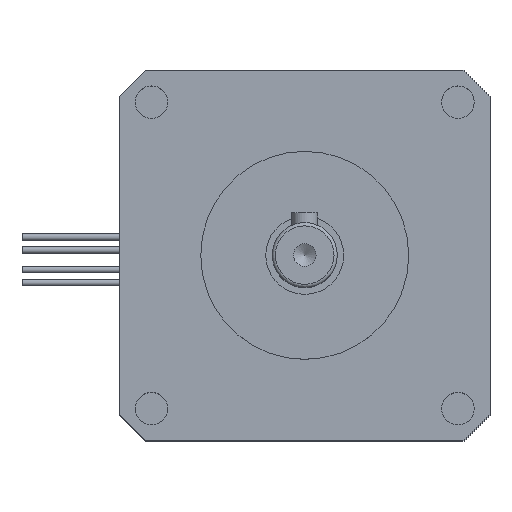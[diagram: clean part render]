
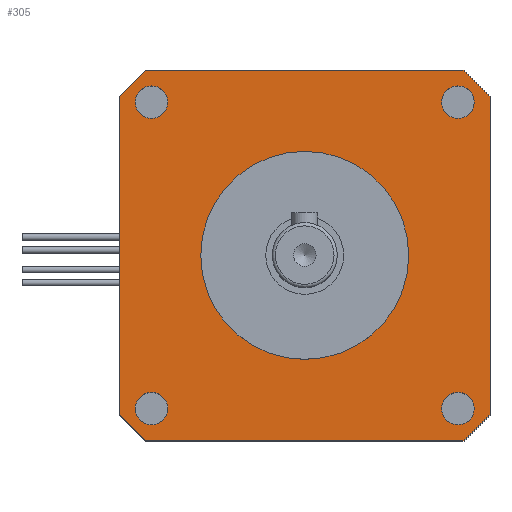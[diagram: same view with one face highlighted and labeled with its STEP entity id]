
A CAD part, top view. The second image highlights one B-rep face of the part: STEP entity #305.
In plain terms, the highlighted planar face has unit normal (0, 0, 1).
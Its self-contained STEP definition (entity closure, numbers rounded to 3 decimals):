
#305=ADVANCED_FACE('',(#1078,#1079,#1080,#1081,#1082,#1083),#458,.F.);
#458=PLANE('',#2848);
#558=LINE('',#3954,#814);
#562=LINE('',#3962,#818);
#565=LINE('',#3968,#821);
#568=LINE('',#3974,#824);
#570=LINE('',#3978,#826);
#571=LINE('',#3979,#827);
#572=LINE('',#3980,#828);
#573=LINE('',#3981,#829);
#814=VECTOR('',#3153,1.);
#818=VECTOR('',#3159,1.);
#821=VECTOR('',#3164,1.);
#824=VECTOR('',#3169,1.);
#826=VECTOR('',#3173,1.);
#827=VECTOR('',#3174,1.);
#828=VECTOR('',#3175,1.);
#829=VECTOR('',#3176,1.);
#1078=FACE_BOUND('',#1149,.T.);
#1079=FACE_BOUND('',#1150,.T.);
#1080=FACE_BOUND('',#1151,.T.);
#1081=FACE_BOUND('',#1152,.T.);
#1082=FACE_BOUND('',#1153,.T.);
#1083=FACE_BOUND('',#1154,.T.);
#1149=EDGE_LOOP('',(#1371));
#1150=EDGE_LOOP('',(#1372,#1373,#1374,#1375,#1376,#1377,#1378,#1379));
#1151=EDGE_LOOP('',(#1380));
#1152=EDGE_LOOP('',(#1381));
#1153=EDGE_LOOP('',(#1382));
#1154=EDGE_LOOP('',(#1383));
#1371=ORIENTED_EDGE('',*,*,#2350,.T.);
#1372=ORIENTED_EDGE('',*,*,#2355,.F.);
#1373=ORIENTED_EDGE('',*,*,#2363,.T.);
#1374=ORIENTED_EDGE('',*,*,#2351,.F.);
#1375=ORIENTED_EDGE('',*,*,#2364,.T.);
#1376=ORIENTED_EDGE('',*,*,#2361,.F.);
#1377=ORIENTED_EDGE('',*,*,#2365,.T.);
#1378=ORIENTED_EDGE('',*,*,#2358,.F.);
#1379=ORIENTED_EDGE('',*,*,#2366,.T.);
#1380=ORIENTED_EDGE('',*,*,#2367,.F.);
#1381=ORIENTED_EDGE('',*,*,#2368,.F.);
#1382=ORIENTED_EDGE('',*,*,#2369,.F.);
#1383=ORIENTED_EDGE('',*,*,#2370,.F.);
#2088=VERTEX_POINT('',#3951);
#2089=VERTEX_POINT('',#3955);
#2090=VERTEX_POINT('',#3956);
#2091=VERTEX_POINT('',#3961);
#2092=VERTEX_POINT('',#3963);
#2093=VERTEX_POINT('',#3967);
#2094=VERTEX_POINT('',#3969);
#2095=VERTEX_POINT('',#3973);
#2096=VERTEX_POINT('',#3975);
#2097=VERTEX_POINT('',#3983);
#2098=VERTEX_POINT('',#3985);
#2099=VERTEX_POINT('',#3987);
#2100=VERTEX_POINT('',#3989);
#2350=EDGE_CURVE('',#2088,#2088,#2711,.T.);
#2351=EDGE_CURVE('',#2089,#2090,#558,.T.);
#2355=EDGE_CURVE('',#2091,#2092,#562,.T.);
#2358=EDGE_CURVE('',#2093,#2094,#565,.T.);
#2361=EDGE_CURVE('',#2095,#2096,#568,.T.);
#2363=EDGE_CURVE('',#2091,#2090,#570,.T.);
#2364=EDGE_CURVE('',#2089,#2096,#571,.T.);
#2365=EDGE_CURVE('',#2095,#2094,#572,.T.);
#2366=EDGE_CURVE('',#2093,#2092,#573,.T.);
#2367=EDGE_CURVE('',#2097,#2097,#2712,.T.);
#2368=EDGE_CURVE('',#2098,#2098,#2713,.T.);
#2369=EDGE_CURVE('',#2099,#2099,#2714,.T.);
#2370=EDGE_CURVE('',#2100,#2100,#2715,.T.);
#2711=CIRCLE('',#2837,16.);
#2712=CIRCLE('',#2844,2.5);
#2713=CIRCLE('',#2845,2.5);
#2714=CIRCLE('',#2846,2.5);
#2715=CIRCLE('',#2847,2.5);
#2837=AXIS2_PLACEMENT_3D('',#3950,#3147,#3148);
#2844=AXIS2_PLACEMENT_3D('',#3982,#3177,#3178);
#2845=AXIS2_PLACEMENT_3D('',#3984,#3179,#3180);
#2846=AXIS2_PLACEMENT_3D('',#3986,#3181,#3182);
#2847=AXIS2_PLACEMENT_3D('',#3988,#3183,#3184);
#2848=AXIS2_PLACEMENT_3D('',#3990,#3185,#3186);
#3147=DIRECTION('',(0.,0.,-1.));
#3148=DIRECTION('',(1.,0.,0.));
#3153=DIRECTION('',(0.,1.,0.));
#3159=DIRECTION('',(1.,0.,0.));
#3164=DIRECTION('',(0.,-1.,0.));
#3169=DIRECTION('',(-1.,0.,0.));
#3173=DIRECTION('',(-0.707,-0.707,0.));
#3174=DIRECTION('',(0.707,-0.707,0.));
#3175=DIRECTION('',(0.707,0.707,0.));
#3176=DIRECTION('',(-0.707,0.707,0.));
#3177=DIRECTION('',(0.,0.,1.));
#3178=DIRECTION('',(1.,0.,0.));
#3179=DIRECTION('',(0.,0.,1.));
#3180=DIRECTION('',(1.,0.,0.));
#3181=DIRECTION('',(0.,0.,1.));
#3182=DIRECTION('',(1.,0.,0.));
#3183=DIRECTION('',(0.,0.,1.));
#3184=DIRECTION('',(1.,0.,0.));
#3185=DIRECTION('',(0.,0.,-1.));
#3186=DIRECTION('',(-1.,0.,0.));
#3950=CARTESIAN_POINT('',(0.,0.,0.));
#3951=CARTESIAN_POINT('',(16.,0.,0.));
#3954=CARTESIAN_POINT('',(-28.5,-28.5,0.));
#3955=CARTESIAN_POINT('',(-28.5,-24.5,0.));
#3956=CARTESIAN_POINT('',(-28.5,24.5,0.));
#3961=CARTESIAN_POINT('',(-24.5,28.5,0.));
#3962=CARTESIAN_POINT('',(-28.5,28.5,0.));
#3963=CARTESIAN_POINT('',(24.5,28.5,0.));
#3967=CARTESIAN_POINT('',(28.5,24.5,0.));
#3968=CARTESIAN_POINT('',(28.5,28.5,0.));
#3969=CARTESIAN_POINT('',(28.5,-24.5,0.));
#3973=CARTESIAN_POINT('',(24.5,-28.5,0.));
#3974=CARTESIAN_POINT('',(28.5,-28.5,0.));
#3975=CARTESIAN_POINT('',(-24.5,-28.5,0.));
#3978=CARTESIAN_POINT('',(-24.5,28.5,0.));
#3979=CARTESIAN_POINT('',(-28.5,-24.5,0.));
#3980=CARTESIAN_POINT('',(24.5,-28.5,0.));
#3981=CARTESIAN_POINT('',(28.5,24.5,0.));
#3982=CARTESIAN_POINT('',(-23.57,23.57,0.));
#3983=CARTESIAN_POINT('',(-21.07,23.57,0.));
#3984=CARTESIAN_POINT('',(23.57,23.57,0.));
#3985=CARTESIAN_POINT('',(26.07,23.57,0.));
#3986=CARTESIAN_POINT('',(23.57,-23.57,0.));
#3987=CARTESIAN_POINT('',(26.07,-23.57,0.));
#3988=CARTESIAN_POINT('',(-23.57,-23.57,0.));
#3989=CARTESIAN_POINT('',(-21.07,-23.57,0.));
#3990=CARTESIAN_POINT('',(-28.5,-28.5,0.));
